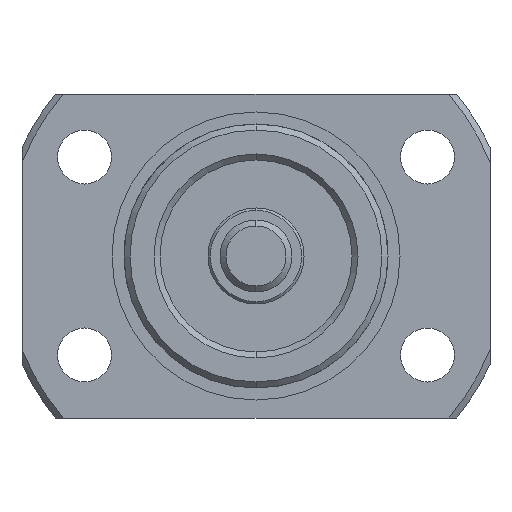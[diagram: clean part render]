
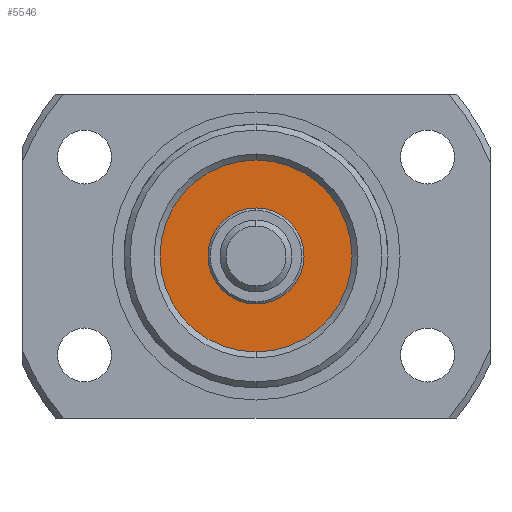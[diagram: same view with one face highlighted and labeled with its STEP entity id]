
A CAD part, left-side view. The second image highlights one B-rep face of the part: STEP entity #5546.
In plain terms, the highlighted planar face has unit normal (-1, 0, 0).
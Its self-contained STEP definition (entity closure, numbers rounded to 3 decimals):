
#190 = DIRECTION ( 'NONE',  ( 0., 0., 1. ) ) ;
#226 = CARTESIAN_POINT ( 'NONE',  ( -34.5, 0., 0. ) ) ;
#242 = DIRECTION ( 'NONE',  ( 0., 0., 1. ) ) ;
#248 = DIRECTION ( 'NONE',  ( -1., 0., 0. ) ) ;
#263 = DIRECTION ( 'NONE',  ( -1., 0., 0. ) ) ;
#274 = DIRECTION ( 'NONE',  ( -1., 0., 0. ) ) ;
#312 = CARTESIAN_POINT ( 'NONE',  ( -34.5, 0., 0. ) ) ;
#331 = DIRECTION ( 'NONE',  ( 0., 0., 1. ) ) ;
#343 = CARTESIAN_POINT ( 'NONE',  ( -34.5, 0., 0. ) ) ;
#1085 = DIRECTION ( 'NONE',  ( 0., 0., 1. ) ) ;
#1089 = CARTESIAN_POINT ( 'NONE',  ( -34.5, 0., 0. ) ) ;
#1100 = DIRECTION ( 'NONE',  ( -1., 0., 0. ) ) ;
#1611 = ORIENTED_EDGE ( 'NONE', *, *, #3795, .T. ) ;
#1613 = ORIENTED_EDGE ( 'NONE', *, *, #3792, .T. ) ;
#1836 = CIRCLE ( 'NONE', #4521, 8. ) ;
#1843 = CIRCLE ( 'NONE', #4523, 8. ) ;
#1845 = CIRCLE ( 'NONE', #4524, 4. ) ;
#2028 = CIRCLE ( 'NONE', #2451, 4. ) ;
#2451 = AXIS2_PLACEMENT_3D ( 'NONE', #1089, #1100, #1085 ) ;
#2607 = AXIS2_PLACEMENT_3D ( 'NONE', #2860, #2859, #2866 ) ;
#2661 = ORIENTED_EDGE ( 'NONE', *, *, #4229, .F. ) ;
#2859 = DIRECTION ( 'NONE',  ( -1., 0., 0. ) ) ;
#2860 = CARTESIAN_POINT ( 'NONE',  ( -34.5, 0., 0. ) ) ;
#2863 = PLANE ( 'NONE',  #2607 ) ;
#2866 = DIRECTION ( 'NONE',  ( 0., 0., 1. ) ) ;
#3013 = ORIENTED_EDGE ( 'NONE', *, *, #3798, .F. ) ;
#3712 = FACE_BOUND ( 'NONE', #4726, .T. ) ;
#3716 = FACE_OUTER_BOUND ( 'NONE', #4746, .T. ) ;
#3792 = EDGE_CURVE ( 'NONE', #4910, #5088, #1836, .T. ) ;
#3795 = EDGE_CURVE ( 'NONE', #5088, #4910, #1843, .T. ) ;
#3798 = EDGE_CURVE ( 'NONE', #5153, #5009, #1845, .T. ) ;
#4229 = EDGE_CURVE ( 'NONE', #5009, #5153, #2028, .T. ) ;
#4521 = AXIS2_PLACEMENT_3D ( 'NONE', #312, #274, #242 ) ;
#4523 = AXIS2_PLACEMENT_3D ( 'NONE', #226, #263, #331 ) ;
#4524 = AXIS2_PLACEMENT_3D ( 'NONE', #343, #248, #190 ) ;
#4726 = EDGE_LOOP ( 'NONE', ( #2661, #3013 ) ) ;
#4746 = EDGE_LOOP ( 'NONE', ( #1613, #1611 ) ) ;
#4910 = VERTEX_POINT ( 'NONE', #5660 ) ;
#5009 = VERTEX_POINT ( 'NONE', #5719 ) ;
#5088 = VERTEX_POINT ( 'NONE', #5732 ) ;
#5153 = VERTEX_POINT ( 'NONE', #5768 ) ;
#5546 = ADVANCED_FACE ( 'NONE', ( #3712, #3716 ), #2863, .T. ) ;
#5660 = CARTESIAN_POINT ( 'NONE',  ( -34.5, 0., -8. ) ) ;
#5719 = CARTESIAN_POINT ( 'NONE',  ( -34.5, 0., -4. ) ) ;
#5732 = CARTESIAN_POINT ( 'NONE',  ( -34.5, 0., 8. ) ) ;
#5768 = CARTESIAN_POINT ( 'NONE',  ( -34.5, 0., 4. ) ) ;
